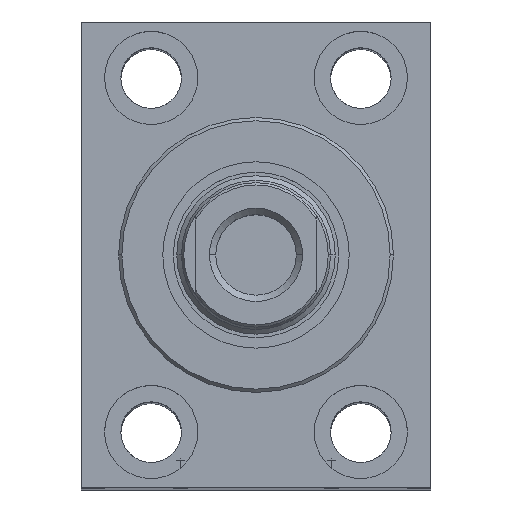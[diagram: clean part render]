
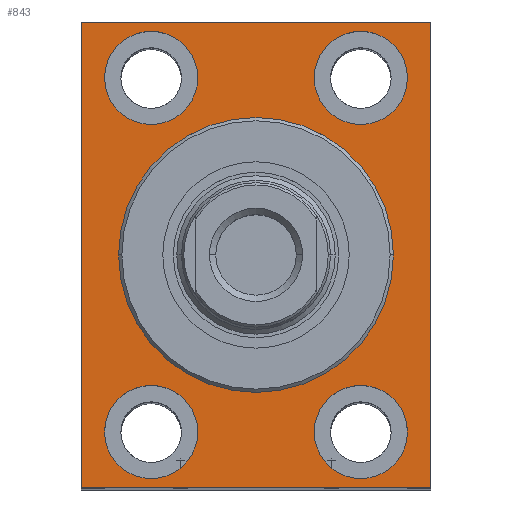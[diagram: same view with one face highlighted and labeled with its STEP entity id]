
A CAD part, top view. The second image highlights one B-rep face of the part: STEP entity #843.
In plain terms, the highlighted planar face has unit normal (0, 0, 1).
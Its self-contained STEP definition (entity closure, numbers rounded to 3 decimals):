
#16 = CIRCLE ( 'NONE', #3428, 10. ) ;
#37 = VERTEX_POINT ( 'NONE', #1266 ) ;
#323 = DIRECTION ( 'NONE',  ( 0., 0., -1. ) ) ;
#381 = CARTESIAN_POINT ( 'NONE',  ( -37.5, 50., -10. ) ) ;
#401 = DIRECTION ( 'NONE',  ( -1., 0., 0. ) ) ;
#504 = CARTESIAN_POINT ( 'NONE',  ( 22.5, -38., -10. ) ) ;
#516 = ORIENTED_EDGE ( 'NONE', *, *, #5159, .T. ) ;
#520 = DIRECTION ( 'NONE',  ( 0., 0., -1. ) ) ;
#574 = VECTOR ( 'NONE', #7891, 1000. ) ;
#668 = ORIENTED_EDGE ( 'NONE', *, *, #6194, .T. ) ;
#674 = EDGE_CURVE ( 'NONE', #6105, #7483, #6030, .T. ) ;
#718 = CARTESIAN_POINT ( 'NONE',  ( -22.5, -38., -10. ) ) ;
#738 = CARTESIAN_POINT ( 'NONE',  ( 37.5, -50., -10. ) ) ;
#806 = CARTESIAN_POINT ( 'NONE',  ( -22.5, 38., -10. ) ) ;
#843 = ADVANCED_FACE ( 'NONE', ( #7112, #7232, #2797, #5400, #7197, #2141 ), #4120, .T. ) ;
#1070 = EDGE_CURVE ( 'NONE', #3098, #1616, #5600, .T. ) ;
#1114 = CIRCLE ( 'NONE', #3605, 10. ) ;
#1224 = AXIS2_PLACEMENT_3D ( 'NONE', #718, #2485, #7612 ) ;
#1265 = CARTESIAN_POINT ( 'NONE',  ( 0., -29.501, -10. ) ) ;
#1266 = CARTESIAN_POINT ( 'NONE',  ( -32.5, -38., -10. ) ) ;
#1282 = AXIS2_PLACEMENT_3D ( 'NONE', #2720, #2880, #4738 ) ;
#1324 = AXIS2_PLACEMENT_3D ( 'NONE', #5060, #3823, #5832 ) ;
#1413 = CARTESIAN_POINT ( 'NONE',  ( -12.5, -38., -10. ) ) ;
#1438 = ORIENTED_EDGE ( 'NONE', *, *, #5880, .T. ) ;
#1493 = CARTESIAN_POINT ( 'NONE',  ( 32.5, 38., -10. ) ) ;
#1609 = CIRCLE ( 'NONE', #1867, 10. ) ;
#1616 = VERTEX_POINT ( 'NONE', #1265 ) ;
#1627 = DIRECTION ( 'NONE',  ( 0., 1., 0. ) ) ;
#1631 = CARTESIAN_POINT ( 'NONE',  ( -37.5, -50., -10. ) ) ;
#1698 = VERTEX_POINT ( 'NONE', #1631 ) ;
#1739 = ORIENTED_EDGE ( 'NONE', *, *, #2870, .T. ) ;
#1762 = ORIENTED_EDGE ( 'NONE', *, *, #2365, .T. ) ;
#1792 = CARTESIAN_POINT ( 'NONE',  ( 12.5, -38., -10. ) ) ;
#1847 = DIRECTION ( 'NONE',  ( 0., 0., -1. ) ) ;
#1867 = AXIS2_PLACEMENT_3D ( 'NONE', #806, #6308, #5122 ) ;
#1874 = CARTESIAN_POINT ( 'NONE',  ( 0., 29.501, -10. ) ) ;
#2044 = AXIS2_PLACEMENT_3D ( 'NONE', #4244, #6741, #4162 ) ;
#2099 = CIRCLE ( 'NONE', #6697, 10. ) ;
#2136 = EDGE_CURVE ( 'NONE', #3286, #7426, #4755, .T. ) ;
#2140 = CARTESIAN_POINT ( 'NONE',  ( 37.5, 50., -10. ) ) ;
#2141 = FACE_OUTER_BOUND ( 'NONE', #5205, .T. ) ;
#2365 = EDGE_CURVE ( 'NONE', #5751, #37, #2099, .T. ) ;
#2483 = EDGE_CURVE ( 'NONE', #7426, #7117, #3208, .T. ) ;
#2485 = DIRECTION ( 'NONE',  ( 0., 0., -1. ) ) ;
#2560 = CARTESIAN_POINT ( 'NONE',  ( 12.5, 38., -10. ) ) ;
#2629 = VECTOR ( 'NONE', #2756, 1000. ) ;
#2720 = CARTESIAN_POINT ( 'NONE',  ( 0., 0., -10. ) ) ;
#2741 = EDGE_CURVE ( 'NONE', #5055, #5836, #16, .T. ) ;
#2744 = VERTEX_POINT ( 'NONE', #5518 ) ;
#2756 = DIRECTION ( 'NONE',  ( -1., 0., 0. ) ) ;
#2774 = DIRECTION ( 'NONE',  ( 0., 0., -1. ) ) ;
#2782 = ORIENTED_EDGE ( 'NONE', *, *, #6086, .T. ) ;
#2797 = FACE_BOUND ( 'NONE', #5675, .T. ) ;
#2816 = DIRECTION ( 'NONE',  ( -1., 0., 0. ) ) ;
#2854 = DIRECTION ( 'NONE',  ( -1., 0., 0. ) ) ;
#2870 = EDGE_CURVE ( 'NONE', #7483, #6105, #6313, .T. ) ;
#2871 = ORIENTED_EDGE ( 'NONE', *, *, #2136, .T. ) ;
#2880 = DIRECTION ( 'NONE',  ( 0., 0., 1. ) ) ;
#3098 = VERTEX_POINT ( 'NONE', #1874 ) ;
#3128 = DIRECTION ( 'NONE',  ( 0., 0., -1. ) ) ;
#3208 = LINE ( 'NONE', #2140, #2629 ) ;
#3243 = ORIENTED_EDGE ( 'NONE', *, *, #1070, .T. ) ;
#3286 = VERTEX_POINT ( 'NONE', #738 ) ;
#3351 = DIRECTION ( 'NONE',  ( 0., 1., 0. ) ) ;
#3428 = AXIS2_PLACEMENT_3D ( 'NONE', #504, #1847, #4364 ) ;
#3490 = LINE ( 'NONE', #381, #574 ) ;
#3605 = AXIS2_PLACEMENT_3D ( 'NONE', #7085, #2774, #2854 ) ;
#3823 = DIRECTION ( 'NONE',  ( 0., 0., -1. ) ) ;
#3991 = EDGE_LOOP ( 'NONE', ( #3243, #4740 ) ) ;
#4120 = PLANE ( 'NONE',  #1282 ) ;
#4121 = CIRCLE ( 'NONE', #1224, 10. ) ;
#4162 = DIRECTION ( 'NONE',  ( 0., 1., 0. ) ) ;
#4201 = AXIS2_PLACEMENT_3D ( 'NONE', #7337, #323, #2816 ) ;
#4244 = CARTESIAN_POINT ( 'NONE',  ( 0., 0., -10. ) ) ;
#4364 = DIRECTION ( 'NONE',  ( -1., 0., 0. ) ) ;
#4581 = EDGE_LOOP ( 'NONE', ( #7066, #516 ) ) ;
#4738 = DIRECTION ( 'NONE',  ( 1., 0., 0. ) ) ;
#4740 = ORIENTED_EDGE ( 'NONE', *, *, #4943, .T. ) ;
#4755 = LINE ( 'NONE', #7710, #5127 ) ;
#4759 = CIRCLE ( 'NONE', #7242, 29.501 ) ;
#4870 = DIRECTION ( 'NONE',  ( 1., 0., 0. ) ) ;
#4912 = VECTOR ( 'NONE', #4870, 1000. ) ;
#4931 = AXIS2_PLACEMENT_3D ( 'NONE', #5767, #3128, #7613 ) ;
#4943 = EDGE_CURVE ( 'NONE', #1616, #3098, #4759, .T. ) ;
#5014 = VERTEX_POINT ( 'NONE', #6154 ) ;
#5055 = VERTEX_POINT ( 'NONE', #1792 ) ;
#5060 = CARTESIAN_POINT ( 'NONE',  ( 22.5, 38., -10. ) ) ;
#5122 = DIRECTION ( 'NONE',  ( -1., 0., 0. ) ) ;
#5127 = VECTOR ( 'NONE', #3351, 1000. ) ;
#5159 = EDGE_CURVE ( 'NONE', #2744, #5014, #1609, .T. ) ;
#5163 = CARTESIAN_POINT ( 'NONE',  ( 32.5, -38., -10. ) ) ;
#5205 = EDGE_LOOP ( 'NONE', ( #668, #1438, #2871, #5811 ) ) ;
#5400 = FACE_BOUND ( 'NONE', #6085, .T. ) ;
#5490 = ORIENTED_EDGE ( 'NONE', *, *, #6988, .T. ) ;
#5518 = CARTESIAN_POINT ( 'NONE',  ( -12.5, 38., -10. ) ) ;
#5529 = CARTESIAN_POINT ( 'NONE',  ( -37.5, -50., -10. ) ) ;
#5600 = CIRCLE ( 'NONE', #2044, 29.501 ) ;
#5675 = EDGE_LOOP ( 'NONE', ( #6318, #1739 ) ) ;
#5751 = VERTEX_POINT ( 'NONE', #1413 ) ;
#5767 = CARTESIAN_POINT ( 'NONE',  ( -22.5, 38., -10. ) ) ;
#5811 = ORIENTED_EDGE ( 'NONE', *, *, #2483, .T. ) ;
#5832 = DIRECTION ( 'NONE',  ( -1., 0., 0. ) ) ;
#5836 = VERTEX_POINT ( 'NONE', #5163 ) ;
#5880 = EDGE_CURVE ( 'NONE', #1698, #3286, #6103, .T. ) ;
#5979 = CIRCLE ( 'NONE', #4931, 10. ) ;
#6030 = CIRCLE ( 'NONE', #4201, 10. ) ;
#6063 = CARTESIAN_POINT ( 'NONE',  ( -22.5, -38., -10. ) ) ;
#6085 = EDGE_LOOP ( 'NONE', ( #7268, #5490 ) ) ;
#6086 = EDGE_CURVE ( 'NONE', #37, #5751, #4121, .T. ) ;
#6103 = LINE ( 'NONE', #5529, #4912 ) ;
#6105 = VERTEX_POINT ( 'NONE', #2560 ) ;
#6154 = CARTESIAN_POINT ( 'NONE',  ( -32.5, 38., -10. ) ) ;
#6194 = EDGE_CURVE ( 'NONE', #7117, #1698, #3490, .T. ) ;
#6308 = DIRECTION ( 'NONE',  ( 0., 0., -1. ) ) ;
#6313 = CIRCLE ( 'NONE', #1324, 10. ) ;
#6318 = ORIENTED_EDGE ( 'NONE', *, *, #674, .T. ) ;
#6524 = EDGE_LOOP ( 'NONE', ( #2782, #1762 ) ) ;
#6697 = AXIS2_PLACEMENT_3D ( 'NONE', #6063, #520, #401 ) ;
#6741 = DIRECTION ( 'NONE',  ( 0., 0., -1. ) ) ;
#6988 = EDGE_CURVE ( 'NONE', #5836, #5055, #1114, .T. ) ;
#7066 = ORIENTED_EDGE ( 'NONE', *, *, #7314, .T. ) ;
#7085 = CARTESIAN_POINT ( 'NONE',  ( 22.5, -38., -10. ) ) ;
#7112 = FACE_BOUND ( 'NONE', #3991, .T. ) ;
#7117 = VERTEX_POINT ( 'NONE', #7372 ) ;
#7135 = CARTESIAN_POINT ( 'NONE',  ( 0., 0., -10. ) ) ;
#7197 = FACE_BOUND ( 'NONE', #6524, .T. ) ;
#7232 = FACE_BOUND ( 'NONE', #4581, .T. ) ;
#7242 = AXIS2_PLACEMENT_3D ( 'NONE', #7135, #7925, #1627 ) ;
#7268 = ORIENTED_EDGE ( 'NONE', *, *, #2741, .T. ) ;
#7314 = EDGE_CURVE ( 'NONE', #5014, #2744, #5979, .T. ) ;
#7337 = CARTESIAN_POINT ( 'NONE',  ( 22.5, 38., -10. ) ) ;
#7372 = CARTESIAN_POINT ( 'NONE',  ( -37.5, 50., -10. ) ) ;
#7426 = VERTEX_POINT ( 'NONE', #7699 ) ;
#7483 = VERTEX_POINT ( 'NONE', #1493 ) ;
#7612 = DIRECTION ( 'NONE',  ( -1., 0., 0. ) ) ;
#7613 = DIRECTION ( 'NONE',  ( -1., 0., 0. ) ) ;
#7699 = CARTESIAN_POINT ( 'NONE',  ( 37.5, 50., -10. ) ) ;
#7710 = CARTESIAN_POINT ( 'NONE',  ( 37.5, -50., -10. ) ) ;
#7891 = DIRECTION ( 'NONE',  ( 0., -1., 0. ) ) ;
#7925 = DIRECTION ( 'NONE',  ( 0., 0., -1. ) ) ;
